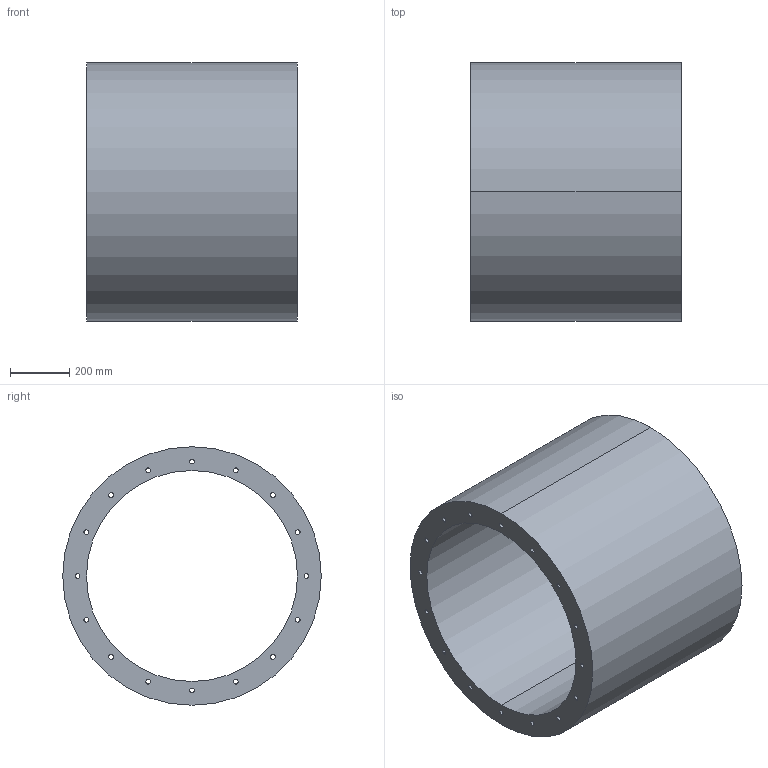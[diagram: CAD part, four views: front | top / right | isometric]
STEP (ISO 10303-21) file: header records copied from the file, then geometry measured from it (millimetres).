
FILE_DESCRIPTION(('STEP AP214'),'1');
FILE_NAME('accessory_5211811600.stp','2017-10-09T11:36:45',('TraceParts'),('TraceParts S.A.'),'Spatial InterOp 3D',' ',' ');
FILE_SCHEMA(('automotive_design'));
Length unit declared in the file: millimetre
Products named in the file (1): accessory_5211811600
Bounding box: 710 x 870 x 870 mm (x, y, z)
Volume: 138685482 mm3; surface area: 4485917.8 mm2
Topology: 1 solids, 1 shells, 38 faces, 108 edges, 72 vertices
Faces by surface type: cylinder 36, plane 2
Entity records: 1672 total; most frequent: DIRECTION 258, CARTESIAN_POINT 219, ORIENTED_EDGE 216, AXIS2_PLACEMENT_3D 111, EDGE_CURVE 108, EDGE_LOOP 72, VERTEX_POINT 72, CIRCLE 72
